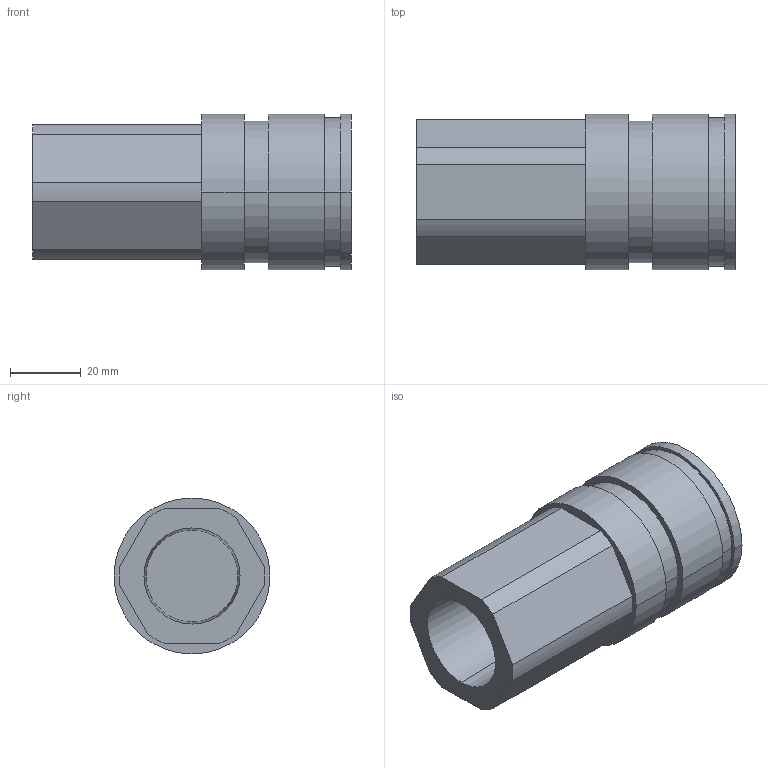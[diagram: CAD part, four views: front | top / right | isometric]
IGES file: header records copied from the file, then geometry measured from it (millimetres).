
Global section: file name: No Iges File Name specified; native system: Autodesk Inventor 2009; preprocessor: AutoDesk Inventor Iges Exporter R2009; author: y-shimohigashi; date: 20080701.112911; units: millimetre
Bounding box: 89.9 x 44 x 44 mm (x, y, z)
Volume: 86732.8 mm3; surface area: 20333.8 mm2
Topology: 1 solids, 1 shells, 35 faces, 78 edges, 52 vertices
Faces by surface type: cylinder 16, plane 15, revolution 4
